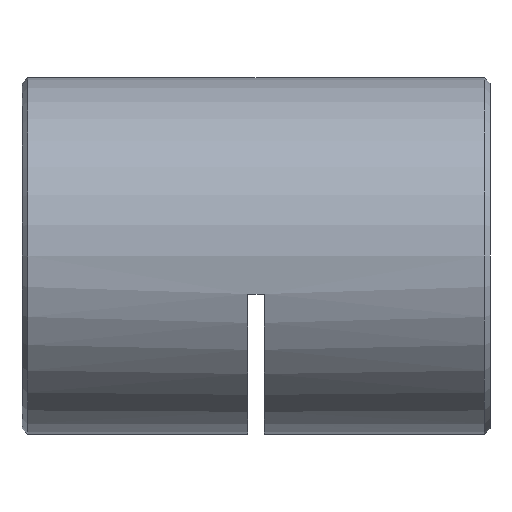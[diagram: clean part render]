
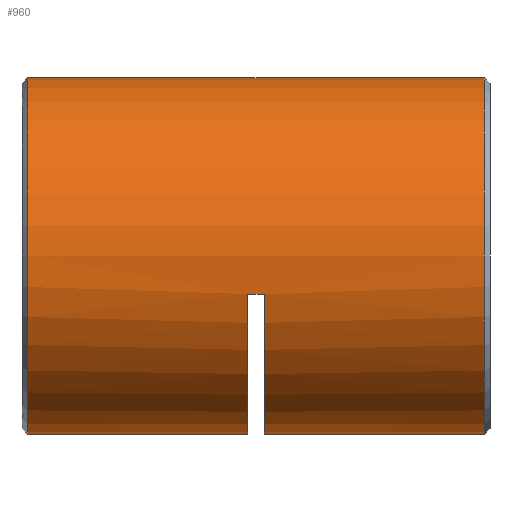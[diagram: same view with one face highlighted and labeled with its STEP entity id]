
A CAD part, left-side view. The second image highlights one B-rep face of the part: STEP entity #960.
In plain terms, the highlighted cylindrical face has radius 16 mm (diameter 32 mm), a partial arc.
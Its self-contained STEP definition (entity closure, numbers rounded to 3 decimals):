
#35 = EDGE_LOOP ( 'NONE', ( #2319, #2505, #5959, #5094, #1224, #1020, #5426, #4117 ) ) ;
#77 = VECTOR ( 'NONE', #2848, 1000. ) ;
#209 = AXIS2_PLACEMENT_3D ( 'NONE', #1567, #3607, #2540 ) ;
#273 = VERTEX_POINT ( 'NONE', #4925 ) ;
#463 = VECTOR ( 'NONE', #6157, 1000. ) ;
#480 = CIRCLE ( 'NONE', #209, 16. ) ;
#519 = VERTEX_POINT ( 'NONE', #1369 ) ;
#590 = VERTEX_POINT ( 'NONE', #5088 ) ;
#715 = CARTESIAN_POINT ( 'NONE',  ( 0., 41.75, -16. ) ) ;
#884 = FACE_OUTER_BOUND ( 'NONE', #35, .T. ) ;
#959 = EDGE_CURVE ( 'NONE', #2888, #5931, #5054, .T. ) ;
#960 = ADVANCED_FACE ( 'NONE', ( #884 ), #3911, .T. ) ;
#977 = CARTESIAN_POINT ( 'NONE',  ( 0., 41.75, 0. ) ) ;
#997 = AXIS2_PLACEMENT_3D ( 'NONE', #2440, #5894, #5933 ) ;
#1004 = LINE ( 'NONE', #4177, #463 ) ;
#1020 = ORIENTED_EDGE ( 'NONE', *, *, #4779, .T. ) ;
#1024 = DIRECTION ( 'NONE',  ( 0., 0., -1. ) ) ;
#1029 = DIRECTION ( 'NONE',  ( 0., 0., -1. ) ) ;
#1161 = CARTESIAN_POINT ( 'NONE',  ( -15.632, 20.5, -3.413 ) ) ;
#1224 = ORIENTED_EDGE ( 'NONE', *, *, #3953, .T. ) ;
#1306 = EDGE_CURVE ( 'NONE', #590, #4986, #2194, .T. ) ;
#1369 = CARTESIAN_POINT ( 'NONE',  ( 0., 22., -16. ) ) ;
#1567 = CARTESIAN_POINT ( 'NONE',  ( 0., 20.5, 0. ) ) ;
#1736 = CIRCLE ( 'NONE', #3572, 16. ) ;
#1768 = LINE ( 'NONE', #5829, #4631 ) ;
#1817 = EDGE_CURVE ( 'NONE', #6217, #519, #1736, .T. ) ;
#1980 = CARTESIAN_POINT ( 'NONE',  ( 0., 22., 0. ) ) ;
#2194 = CIRCLE ( 'NONE', #3400, 16. ) ;
#2285 = EDGE_CURVE ( 'NONE', #273, #2888, #2559, .T. ) ;
#2319 = ORIENTED_EDGE ( 'NONE', *, *, #6242, .F. ) ;
#2440 = CARTESIAN_POINT ( 'NONE',  ( 0., 0.75, 0. ) ) ;
#2505 = ORIENTED_EDGE ( 'NONE', *, *, #1306, .T. ) ;
#2540 = DIRECTION ( 'NONE',  ( 0., 0., -1. ) ) ;
#2559 = LINE ( 'NONE', #4308, #5479 ) ;
#2848 = DIRECTION ( 'NONE',  ( 0., -1., 0. ) ) ;
#2875 = DIRECTION ( 'NONE',  ( 0., -1., 0. ) ) ;
#2888 = VERTEX_POINT ( 'NONE', #4283 ) ;
#3400 = AXIS2_PLACEMENT_3D ( 'NONE', #977, #5863, #4981 ) ;
#3407 = EDGE_CURVE ( 'NONE', #4986, #519, #3802, .T. ) ;
#3439 = AXIS2_PLACEMENT_3D ( 'NONE', #3914, #4964, #1024 ) ;
#3493 = CARTESIAN_POINT ( 'NONE',  ( 0., 0.75, 16. ) ) ;
#3572 = AXIS2_PLACEMENT_3D ( 'NONE', #1980, #5427, #1029 ) ;
#3607 = DIRECTION ( 'NONE',  ( 0., -1., 0. ) ) ;
#3802 = LINE ( 'NONE', #4917, #77 ) ;
#3911 = CYLINDRICAL_SURFACE ( 'NONE', #3439, 16. ) ;
#3914 = CARTESIAN_POINT ( 'NONE',  ( 0., 42.5, 0. ) ) ;
#3953 = EDGE_CURVE ( 'NONE', #6217, #5117, #1004, .T. ) ;
#4117 = ORIENTED_EDGE ( 'NONE', *, *, #959, .T. ) ;
#4177 = CARTESIAN_POINT ( 'NONE',  ( -15.632, 21.25, -3.413 ) ) ;
#4277 = CARTESIAN_POINT ( 'NONE',  ( -15.632, 22., -3.413 ) ) ;
#4283 = CARTESIAN_POINT ( 'NONE',  ( 0., 0.75, -16. ) ) ;
#4308 = CARTESIAN_POINT ( 'NONE',  ( 0., 42.5, -16. ) ) ;
#4631 = VECTOR ( 'NONE', #2875, 1000. ) ;
#4779 = EDGE_CURVE ( 'NONE', #5117, #273, #480, .T. ) ;
#4917 = CARTESIAN_POINT ( 'NONE',  ( 0., 42.5, -16. ) ) ;
#4925 = CARTESIAN_POINT ( 'NONE',  ( 0., 20.5, -16. ) ) ;
#4964 = DIRECTION ( 'NONE',  ( 0., -1., 0. ) ) ;
#4981 = DIRECTION ( 'NONE',  ( 0., 0., -1. ) ) ;
#4986 = VERTEX_POINT ( 'NONE', #715 ) ;
#5054 = CIRCLE ( 'NONE', #997, 16. ) ;
#5088 = CARTESIAN_POINT ( 'NONE',  ( 0., 41.75, 16. ) ) ;
#5094 = ORIENTED_EDGE ( 'NONE', *, *, #1817, .F. ) ;
#5117 = VERTEX_POINT ( 'NONE', #1161 ) ;
#5426 = ORIENTED_EDGE ( 'NONE', *, *, #2285, .T. ) ;
#5427 = DIRECTION ( 'NONE',  ( 0., -1., 0. ) ) ;
#5479 = VECTOR ( 'NONE', #5801, 1000. ) ;
#5801 = DIRECTION ( 'NONE',  ( 0., -1., 0. ) ) ;
#5829 = CARTESIAN_POINT ( 'NONE',  ( 0., 42.5, 16. ) ) ;
#5863 = DIRECTION ( 'NONE',  ( 0., -1., 0. ) ) ;
#5894 = DIRECTION ( 'NONE',  ( 0., 1., 0. ) ) ;
#5931 = VERTEX_POINT ( 'NONE', #3493 ) ;
#5933 = DIRECTION ( 'NONE',  ( 0., 0., 1. ) ) ;
#5959 = ORIENTED_EDGE ( 'NONE', *, *, #3407, .T. ) ;
#6157 = DIRECTION ( 'NONE',  ( 0., -1., 0. ) ) ;
#6217 = VERTEX_POINT ( 'NONE', #4277 ) ;
#6242 = EDGE_CURVE ( 'NONE', #590, #5931, #1768, .T. ) ;
